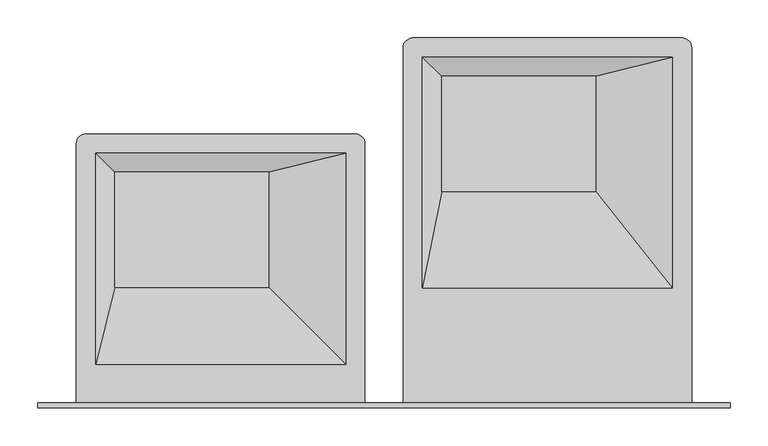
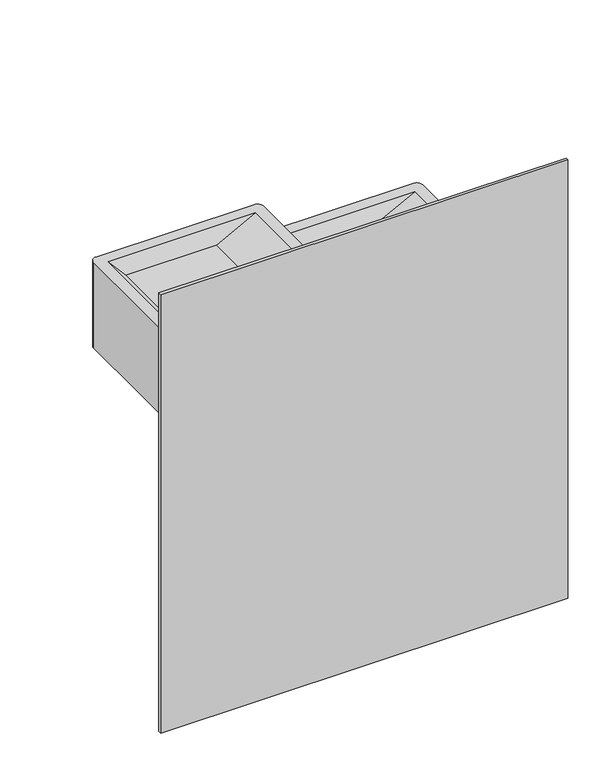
"""IFC4 building model written with IfcOpenShell, lengths in millimetres: flow terminal geometry, Drinking Fountain-Hi-Lo-3D : Drinking Fountain-Hi-Lo-3D."""

from ifc_helpers import new_model, si_unit, frame, origin, place, context, project, spatial, polyline, circle_curve, outline, extrude, source, transform, mapped, element, save
from ifc_brep_helpers import plane_surface, cylinder_surface, advanced_brep


def flow_terminal_cf2a86d7(model_context):
    return source(origin(), model_context, "Body", "SolidModel", [
        advanced_brep(
        [(-37.5185542, 68.2625, 1193.8), (-37.5185542, 411.1625, 1193.8), (-50.2185542, 423.8625, 1193.8), (-405.8185542, 423.8625, 1193.8), (-418.5185542, 411.1625, 1193.8), (-418.5185542, 68.2625, 1193.8), (-393.1185542, 398.4625, 1193.8), (-62.9185542, 398.4625, 1193.8), (-62.9185542, 119.0625, 1193.8), (-393.1185542, 119.0625, 1193.8), (-37.5185542, 68.2625, 990.6), (-418.5185542, 68.2625, 990.6), (-418.5185542, 411.1625, 990.6), (-405.8185542, 423.8625, 990.6), (-50.2185542, 423.8625, 990.6), (-37.5185542, 411.1625, 990.6), (-164.5185542, 373.0625, 1168.4), (-367.7185542, 373.0625, 1168.4), (-367.7185542, 220.6625, 1168.4), (-164.5185542, 220.6625, 1168.4)],
        [
            (0, 1),
            (1, 2, circle_curve(frame((-50.2185542, 411.1625, 1193.8), z_axis=(0.0, 0.0, 1.0), x_axis=(0.0, 1.0, 0.0)), 12.7)),
            (2, 3),
            (3, 4, circle_curve(frame((-405.8185542, 411.1625, 1193.8), z_axis=(0.0, 0.0, 1.0), x_axis=(0.0, 1.0, 0.0)), 12.7)),
            (4, 5),
            (5, 0),
            (6, 7),
            (7, 8),
            (8, 9),
            (9, 6),
            (10, 11),
            (11, 12),
            (12, 13, circle_curve(frame((-405.8185542, 411.1625, 990.6), z_axis=(0.0, 0.0, -1.0), x_axis=(0.0, 1.0, 0.0)), 12.7)),
            (13, 14),
            (14, 15, circle_curve(frame((-50.2185542, 411.1625, 990.6), z_axis=(0.0, 0.0, -1.0), x_axis=(0.0, 1.0, 0.0)), 12.7)),
            (15, 10),
            (0, 10),
            (15, 1),
            (14, 2),
            (13, 3),
            (12, 4),
            (11, 5),
            (16, 17),
            (17, 18),
            (18, 19),
            (19, 16),
            (16, 7),
            (6, 17),
            (9, 18),
            (8, 19),
        ],
        [
            plane_surface(frame((-37.5185542, 68.2625, 1193.8), z_axis=(0.0, 0.0, 1.0), x_axis=(0.0, 1.0, 0.0))),
            plane_surface(frame((-37.5185542, 68.2625, 990.6), z_axis=(0.0, 0.0, -1.0), x_axis=(0.0, -1.0, 0.0))),
            plane_surface(frame((-37.5185542, 68.2625, 1193.8), z_axis=(1.0, 0.0, 0.0), x_axis=(0.0, 0.0, -1.0))),
            cylinder_surface(frame((-50.2185542, 411.1625, 990.6), z_axis=(0.0, 0.0, 1.0), x_axis=(0.0, 1.0, 0.0)), 12.7),
            plane_surface(frame((-50.2185542, 423.8625, 1193.8), z_axis=(0.0, 1.0, 0.0), x_axis=(0.0, 0.0, -1.0))),
            cylinder_surface(frame((-405.8185542, 411.1625, 990.6), z_axis=(0.0, 0.0, 1.0), x_axis=(0.0, 1.0, 0.0)), 12.7),
            plane_surface(frame((-418.5185542, 411.1625, 1193.8), z_axis=(-1.0, 0.0, 0.0), x_axis=(0.0, 0.0, -1.0))),
            plane_surface(frame((-418.5185542, 68.2625, 1193.8), z_axis=(0.0, -1.0, 0.0), x_axis=(0.0, 0.0, -1.0))),
            plane_surface(frame((-266.1185542, 296.8625, 1168.4), z_axis=(0.0, 0.0, 1.0), x_axis=(-1.0, 0.0, 0.0))),
            plane_surface(frame((-266.1185542, 373.0625, 1168.4), z_axis=(0.0, -0.7071067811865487, 0.7071067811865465), x_axis=(-1.0, 0.0, 0.0))),
            plane_surface(frame((-367.7185542, 296.8625, 1168.4), z_axis=(0.7071067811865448, 0.0, 0.7071067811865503), x_axis=(0.0, -1.0, 0.0))),
            plane_surface(frame((-266.1185542, 220.6625, 1168.4), z_axis=(0.0, 0.24253562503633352, 0.9701425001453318), x_axis=(1.0, 0.0, 0.0))),
            plane_surface(frame((-164.5185542, 296.8625, 1168.4), z_axis=(-0.24253562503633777, 0.0, 0.9701425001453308), x_axis=(0.0, 1.0, 0.0))),
        ],
        [
            (0, [[1, 2, 3, 4, 5, 6], [7, 8, 9, 10]]),
            (1, [[11, 12, 13, 14, 15, 16]]),
            (2, [[-1, 17, -16, 18]]),
            (3, [[-2, -18, -15, 19]]),
            (4, [[-3, -19, -14, 20]]),
            (5, [[-4, -20, -13, 21]]),
            (6, [[-5, -21, -12, 22]]),
            (7, [[-6, -22, -11, -17]]),
            (8, [[23, 24, 25, 26]]),
            (9, [[-23, 27, -7, 28]]),
            (10, [[-24, -28, -10, 29]]),
            (11, [[-25, -29, -9, 30]]),
            (12, [[-26, -30, -8, -27]]),
        ],
    ),
        advanced_brep(
        [(394.2814458, 68.2625, 1016.0), (394.2814458, 538.1625, 1016.0), (381.5814458, 550.8625, 1016.0), (25.9814458, 550.8625, 1016.0), (13.2814458, 538.1625, 1016.0), (13.2814458, 68.2625, 1016.0), (38.6814458, 525.1112458, 1016.0), (368.8814458, 525.1112458, 1016.0), (368.8814458, 220.3112458, 1016.0), (38.6814458, 220.3112458, 1016.0), (394.2814458, 68.2625, 762.0), (13.2814458, 68.2625, 762.0), (13.2814458, 538.1625, 762.0), (25.9814458, 550.8625, 762.0), (381.5814458, 550.8625, 762.0), (394.2814458, 538.1625, 762.0), (267.2814458, 500.0625, 990.6), (64.0814458, 500.0625, 990.6), (64.0814458, 347.6625, 990.6), (267.2814458, 347.6625, 990.6)],
        [
            (0, 1),
            (1, 2, circle_curve(frame((381.5814458, 538.1625, 1016.0), z_axis=(0.0, 0.0, 1.0), x_axis=(0.0, 1.0, 0.0)), 12.7)),
            (2, 3),
            (3, 4, circle_curve(frame((25.9814458, 538.1625, 1016.0), z_axis=(0.0, 0.0, 1.0), x_axis=(0.0, 1.0, 0.0)), 12.7)),
            (4, 5),
            (5, 0),
            (6, 7),
            (7, 8),
            (8, 9),
            (9, 6),
            (10, 11),
            (11, 12),
            (12, 13, circle_curve(frame((25.9814458, 538.1625, 762.0), z_axis=(0.0, 0.0, -1.0), x_axis=(0.0, 1.0, 0.0)), 12.7)),
            (13, 14),
            (14, 15, circle_curve(frame((381.5814458, 538.1625, 762.0), z_axis=(0.0, 0.0, -1.0), x_axis=(0.0, 1.0, 0.0)), 12.7)),
            (15, 10),
            (0, 10),
            (15, 1),
            (14, 2),
            (13, 3),
            (12, 4),
            (11, 5),
            (16, 17),
            (17, 18),
            (18, 19),
            (19, 16),
            (16, 7),
            (6, 17),
            (9, 18),
            (8, 19),
        ],
        [
            plane_surface(frame((394.2814458, 68.2625, 1016.0), z_axis=(0.0, 0.0, 1.0), x_axis=(0.0, 1.0, 0.0))),
            plane_surface(frame((394.2814458, 68.2625, 762.0), z_axis=(0.0, 0.0, -1.0), x_axis=(0.0, -1.0, 0.0))),
            plane_surface(frame((394.2814458, 68.2625, 1016.0), z_axis=(1.0, 0.0, 0.0), x_axis=(0.0, 0.0, -1.0))),
            cylinder_surface(frame((381.5814458, 538.1625, 762.0), z_axis=(0.0, 0.0, 1.0), x_axis=(0.0, 1.0, 0.0)), 12.7),
            plane_surface(frame((381.5814458, 550.8625, 1016.0), z_axis=(0.0, 1.0, 0.0), x_axis=(0.0, 0.0, -1.0))),
            cylinder_surface(frame((25.9814458, 538.1625, 762.0), z_axis=(0.0, 0.0, 1.0), x_axis=(0.0, 1.0, 0.0)), 12.7),
            plane_surface(frame((13.2814458, 538.1625, 1016.0), z_axis=(-1.0, 0.0, 0.0), x_axis=(0.0, 0.0, -1.0))),
            plane_surface(frame((13.2814458, 68.2625, 1016.0), z_axis=(0.0, -1.0, 0.0), x_axis=(0.0, 0.0, -1.0))),
            plane_surface(frame((165.6814458, 423.8625, 990.6), z_axis=(0.0, 0.0, 1.0), x_axis=(-1.0, 0.0, 0.0))),
            plane_surface(frame((165.6814458, 500.0625, 990.6), z_axis=(0.0, -0.712012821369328, 0.7021664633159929), x_axis=(-1.0, 0.0, 0.0))),
            plane_surface(frame((64.0814458, 423.8625, 990.6), z_axis=(0.7071067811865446, 0.0, 0.7071067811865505), x_axis=(0.0, -1.0, 0.0))),
            plane_surface(frame((165.6814458, 347.6625, 990.6), z_axis=(0.0, 0.1955959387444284, 0.9806845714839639), x_axis=(1.0, 0.0, 0.0))),
            plane_surface(frame((267.2814458, 423.8625, 990.6), z_axis=(-0.2425356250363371, 0.0, 0.9701425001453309), x_axis=(0.0, 1.0, 0.0))),
        ],
        [
            (0, [[1, 2, 3, 4, 5, 6], [7, 8, 9, 10]]),
            (1, [[11, 12, 13, 14, 15, 16]]),
            (2, [[-1, 17, -16, 18]]),
            (3, [[-2, -18, -15, 19]]),
            (4, [[-3, -19, -14, 20]]),
            (5, [[-4, -20, -13, 21]]),
            (6, [[-5, -21, -12, 22]]),
            (7, [[-6, -22, -11, -17]]),
            (8, [[23, 24, 25, 26]]),
            (9, [[-23, 27, -7, 28]]),
            (10, [[-24, -28, -10, 29]]),
            (11, [[-25, -29, -9, 30]]),
            (12, [[-26, -30, -8, -27]]),
        ],
    ),
        extrude(outline(polyline([(-469.3185542, 68.2625), (445.0814458, 68.2625), (445.0814458, 61.9125), (-469.3185542, 61.9125), (-469.3185542, 68.2625)])), frame((0.0, 0.0, 305.0046103), z_axis=(0.0, 0.0, 1.0), x_axis=(1.0, 0.0, 0.0)), (0.0, 0.0, 1.0), 1041.4),
    ])


if __name__ == "__main__":
    model = new_model("IFC4")
    model_context = context("Model", 3, world=origin())
    ifc_project = project(units=[si_unit("LENGTHUNIT", "METRE", prefix="MILLI")], contexts=[model_context])
    site = spatial("IfcSite", under=ifc_project)
    building = spatial("IfcBuilding", under=site)
    placement = place(None, origin())
    flow_terminal_shape = flow_terminal_cf2a86d7(model_context)
    element("IfcFlowTerminal", 1, ObjectType="Drinking Fountain-Hi-Lo-3D : Drinking Fountain-Hi-Lo-3D", at=placement, inside=building, context=model_context, shape_type="MappedRepresentation", body=[
        mapped(flow_terminal_shape, transform((0.0, 0.0, 0.0), x_axis=(1.0, 0.0, 0.0), y_axis=(0.0, 1.0, 0.0), z_axis=(0.0, 0.0, 1.0))),
    ])
    save(model, "model.ifc")
